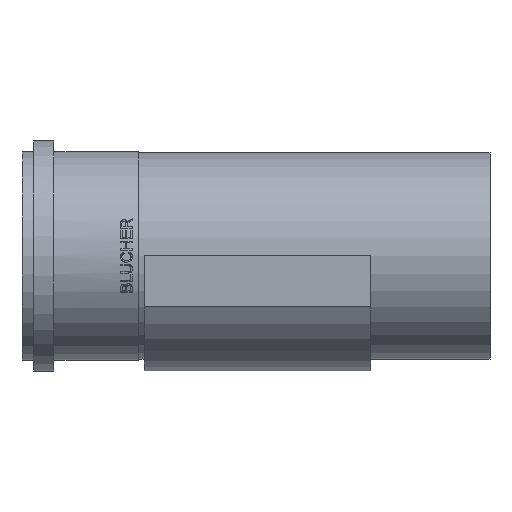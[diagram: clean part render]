
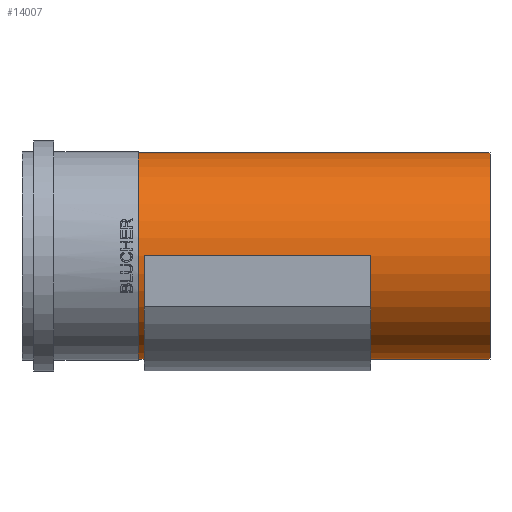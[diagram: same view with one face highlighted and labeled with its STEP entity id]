
A CAD part, top view. The second image highlights one B-rep face of the part: STEP entity #14007.
In plain terms, the highlighted cylindrical face has radius 54.991 mm (diameter 109.982 mm), a full revolution.
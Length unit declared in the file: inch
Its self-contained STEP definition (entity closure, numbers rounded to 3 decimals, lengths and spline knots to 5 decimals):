
#13735=CARTESIAN_POINT('',(-2.375,0.0,-2.165));
#13736=VERTEX_POINT('',#13735);
#13752=CARTESIAN_POINT('',(-2.375,0.0,2.165));
#13753=VERTEX_POINT('',#13752);
#13760=CARTESIAN_POINT('',(-2.375,0.0,0.0));
#13761=DIRECTION('',(-1.0,0.0,0.0));
#13762=DIRECTION('',(0.0,1.0,0.0));
#13763=AXIS2_PLACEMENT_3D('',#13760,#13761,#13762);
#13764=CIRCLE('',#13763,2.165);
#13765=EDGE_CURVE('',#13736,#13753,#13764,.T.);
#13777=CARTESIAN_POINT('',(2.375,0.0,2.165));
#13778=VERTEX_POINT('',#13777);
#13785=CARTESIAN_POINT('',(-2.375,0.0,2.165));
#13786=DIRECTION('',(1.0,0.0,0.0));
#13787=VECTOR('',#13786,4.75);
#13788=LINE('',#13785,#13787);
#13789=EDGE_CURVE('',#13753,#13778,#13788,.T.);
#13806=CARTESIAN_POINT('',(2.375,0.0,-2.165));
#13807=VERTEX_POINT('',#13806);
#13823=CARTESIAN_POINT('',(-2.375,0.0,-2.165));
#13824=DIRECTION('',(1.0,0.0,0.0));
#13825=VECTOR('',#13824,4.75);
#13826=LINE('',#13823,#13825);
#13827=EDGE_CURVE('',#13736,#13807,#13826,.T.);
#13858=CARTESIAN_POINT('',(2.375,0.0,0.0));
#13859=DIRECTION('',(1.0,0.0,0.0));
#13860=DIRECTION('',(0.0,1.0,0.0));
#13861=AXIS2_PLACEMENT_3D('',#13858,#13859,#13860);
#13862=CIRCLE('',#13861,2.165);
#13863=EDGE_CURVE('',#13778,#13807,#13862,.T.);
#13970=CARTESIAN_POINT('',(-2.5,2.165,0.0));
#13971=VERTEX_POINT('',#13970);
#13972=CARTESIAN_POINT('',(-2.5,0.0,0.0));
#13973=DIRECTION('',(1.0,0.0,0.0));
#13974=DIRECTION('',(0.0,1.0,0.0));
#13975=AXIS2_PLACEMENT_3D('',#13972,#13973,#13974);
#13976=CIRCLE('',#13975,2.165);
#13977=EDGE_CURVE('',#13971,#13971,#13976,.T.);
#13982=CARTESIAN_POINT('',(1.1875,0.0,0.0));
#13983=DIRECTION('',(1.0,0.0,0.0));
#13984=DIRECTION('',(0.0,1.0,0.0));
#13985=AXIS2_PLACEMENT_3D('',#13982,#13983,#13984);
#13986=CYLINDRICAL_SURFACE('',#13985,2.165);
#13987=CARTESIAN_POINT('',(4.875,2.165,0.0));
#13988=VERTEX_POINT('',#13987);
#13989=CARTESIAN_POINT('',(4.875,0.0,0.0));
#13990=DIRECTION('',(1.0,0.0,0.0));
#13991=DIRECTION('',(0.0,1.0,0.0));
#13992=AXIS2_PLACEMENT_3D('',#13989,#13990,#13991);
#13993=CIRCLE('',#13992,2.165);
#13994=EDGE_CURVE('',#13988,#13988,#13993,.T.);
#13995=ORIENTED_EDGE('',*,*,#13994,.F.);
#13996=EDGE_LOOP('',(#13995));
#13997=FACE_OUTER_BOUND('',#13996,.T.);
#13998=ORIENTED_EDGE('',*,*,#13765,.T.);
#13999=ORIENTED_EDGE('',*,*,#13789,.T.);
#14000=ORIENTED_EDGE('',*,*,#13863,.T.);
#14001=ORIENTED_EDGE('',*,*,#13827,.F.);
#14002=EDGE_LOOP('',(#13998,#13999,#14000,#14001));
#14003=FACE_BOUND('',#14002,.T.);
#14004=ORIENTED_EDGE('',*,*,#13977,.T.);
#14005=EDGE_LOOP('',(#14004));
#14006=FACE_BOUND('',#14005,.T.);
#14007=ADVANCED_FACE('',(#13997,#14003,#14006),#13986,.T.);
